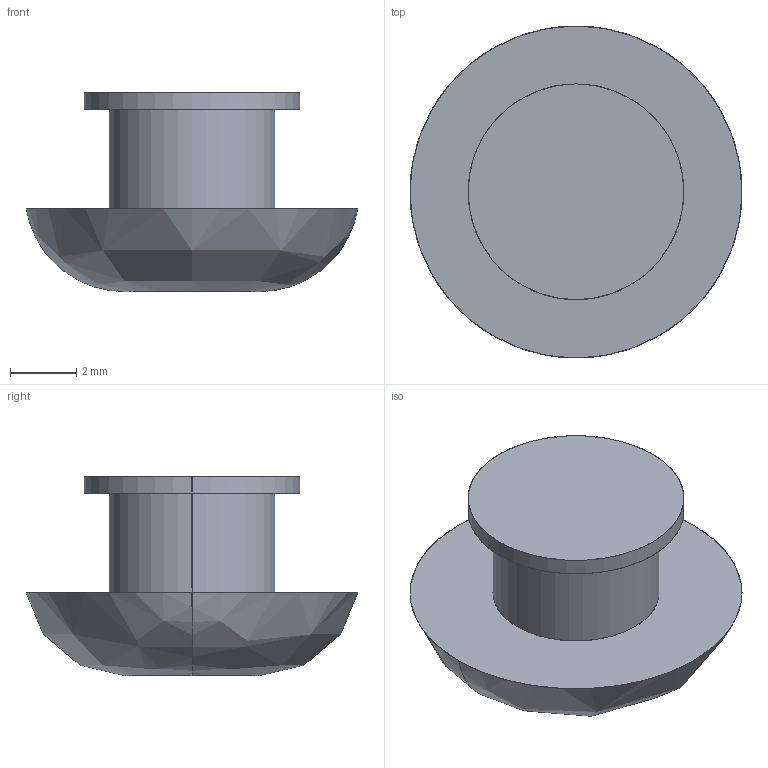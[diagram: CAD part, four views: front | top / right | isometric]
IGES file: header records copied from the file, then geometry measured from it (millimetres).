
Start section: SolidWorks IGES FILE using analytic representation for surfaces
Global section: file name: C:\Documents and Settings\lecoutey\Bureau\GE 1040\1040.300.10.IGS; native system: SolidWorks 2004 by SolidWorks Corporation; preprocessor: Version 5.3; author: lecoutey; date: 050330.085608; units: millimetre
Bounding box: 10 x 10 x 6 mm (x, y, z)
Surface area: 277.2 mm2 (no closed solid volume)
Topology: 0 solids, 0 shells, 10 faces, 216 edges, 216 vertices
Faces by surface type: bspline 6, revolution 4
